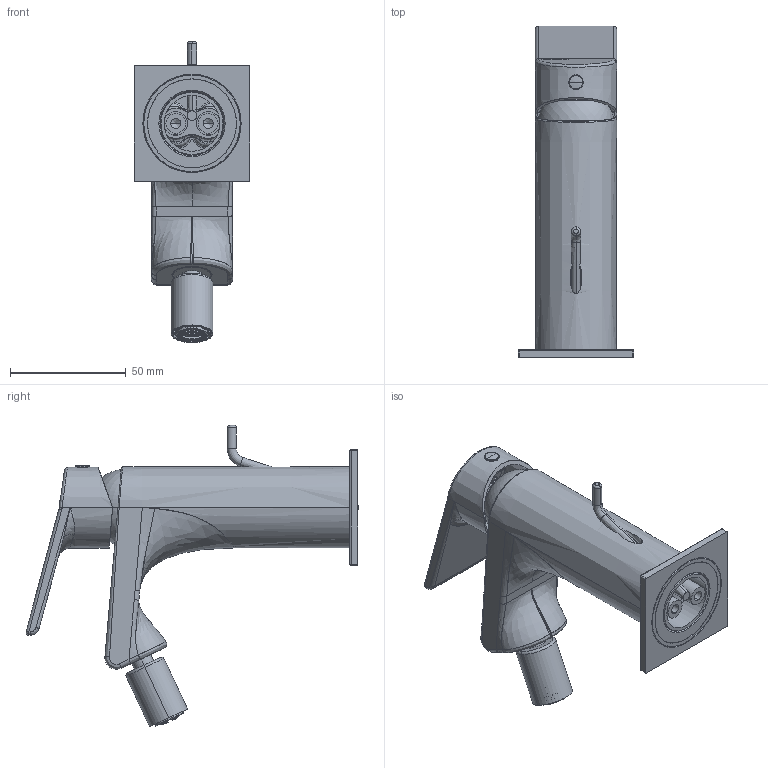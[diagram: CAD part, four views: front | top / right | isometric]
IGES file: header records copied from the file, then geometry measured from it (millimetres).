
Start section:  PTC IGES file: 74103.igs
Global section: file name: 74103.igs; native system: Creo Parametric by PTC Inc.; preprocessor: 2022014; author: carloff; organization: Unknown; date: 20251008.113603; units: millimetre
Bounding box: 50 x 143.16 x 129.89 mm (x, y, z)
Surface area: 73572.3 mm2 (no closed solid volume)
Topology: 0 solids, 0 shells, 3824 faces, 21578 edges, 21492 vertices
Faces by surface type: bspline 2401, revolution 1356, extrusion 67
